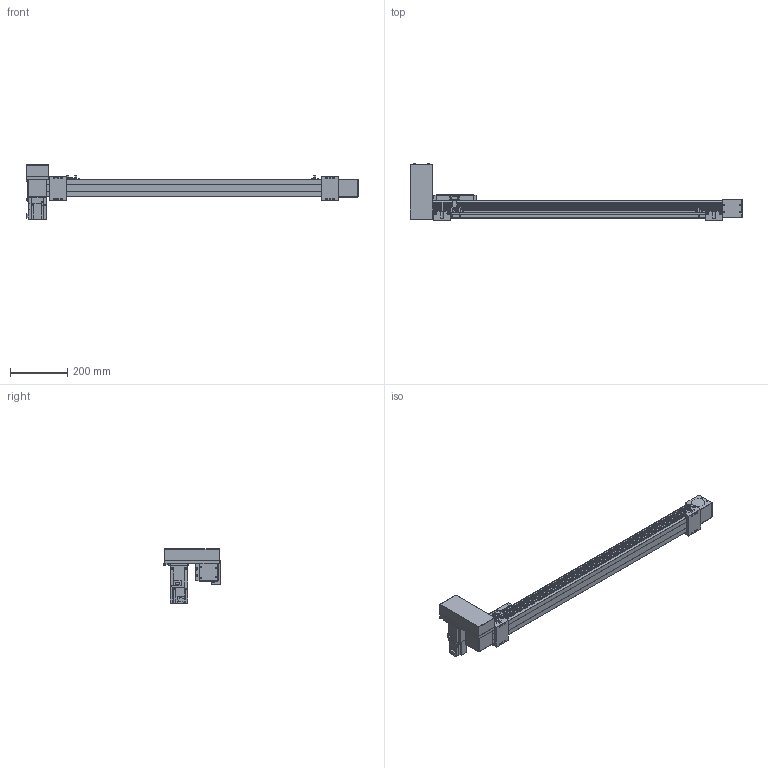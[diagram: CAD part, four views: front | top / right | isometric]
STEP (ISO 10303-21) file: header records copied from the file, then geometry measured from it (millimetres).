
FILE_DESCRIPTION(/* description */ ('STEP AP214'),/* implementation_level */ '2;1');
FILE_NAME(/* name */ 'SK60-P13-S850-RU-T40-C1-N(0)',/* time_stamp */ '2023-04-06T05:02:39+02:00',/* author */ ('License CC BY-ND 4.0'),/* organization */ ('CADENAS'),/* preprocessor_version */ 'ST-DEVELOPER v19.3',/* originating_system */ 'PARTsolutions',/* authorisation */ ' ');
FILE_SCHEMA (('AUTOMOTIVE_DESIGN {1 0 10303 214 3 1 1}'));
Length unit declared in the file: millimetre
Products named in the file (10): SK60-P13-S850-RU-T40-C1-N(0); PSC140-sensor; SK60-S450_seat; SK60-S450-BL-C1_slider; SK60_body3; SK60_body6; SK60-BL_body2; T40-p1; SK60-RU_fb; SK60-S850-RU-C1_body
Assembly tree (16 placements, depth 2):
  SK60-P13-S850-RU-T40-C1-N(0)
    PSC140-sensor  x3
    SK60-S450_seat  x2
    SK60-S450-BL-C1_slider
    SK60_body3  x3
    SK60_body6  x2
    SK60-BL_body2  x2
    T40-p1
    SK60-RU_fb
    SK60-S850-RU-C1_body
Bounding box: 1155.5 x 201 x 189.7 mm (x, y, z)
Volume: 5105455.5 mm3; surface area: 646273.8 mm2
Topology: 16 solids, 16 shells, 810 faces, 2048 edges, 1349 vertices
Faces by surface type: plane 524, cylinder 262, cone 22, torus 2
Full cylindrical faces by diameter (mm): 2.8 x3, 3.3 x4, 4 x2, 4.5 x30, 4.6 x3, 4.917 x16, 5 x6, 5.478 x4, 5.5 x19, 6.5 x4, 7 x2, 8 x4, 8.5 x4, 9.988 x4, 10 x8, 14 x1, 47 x3, 50 x2
Entity records: 18655 total; most frequent: DIRECTION 3184, CARTESIAN_POINT 3150, ORIENTED_EDGE 2940, EDGE_CURVE 1470, AXIS2_PLACEMENT_3D 1068, LINE 1048, VECTOR 1048, VERTEX_POINT 1034
